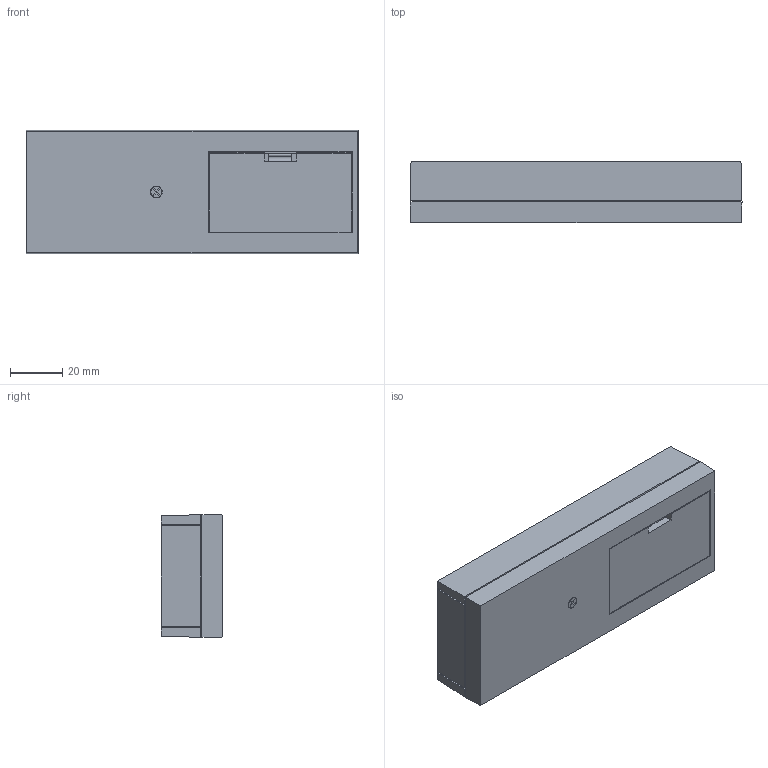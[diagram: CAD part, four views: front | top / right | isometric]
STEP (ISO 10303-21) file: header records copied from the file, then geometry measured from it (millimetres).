
FILE_DESCRIPTION (( 'STEP AP214' ), '1' );
FILE_NAME ('Conujnt PP7A.STEP', '2019-11-04T08:58:45', ( 'aaa' ), ( '' ), 'SwSTEP 2.0', 'SolidWorks 2014', '' );
FILE_SCHEMA (( 'AUTOMOTIVE_DESIGN' ));
Length unit declared in the file: millimetre
Products named in the file (6): Cargol 2,2x6,95 PP7A; Cargol 2,2x16 PP7A; Tapeta pilas PP7A; Tapa PP7A; Cos PP7A; Conujnt PP7A
Assembly tree (6 placements, depth 2):
  Conujnt PP7A
    Cos PP7A
    Tapa PP7A
    Tapeta pilas PP7A
    Cargol 2,2x16 PP7A
    Cargol 2,2x6,95 PP7A  x2
Bounding box: 127.02 x 23.6 x 47.08 mm (x, y, z)
Volume: 43961.8 mm3; surface area: 44591.3 mm2
Topology: 6 solids, 6 shells, 667 faces, 1735 edges, 1062 vertices
Faces by surface type: plane 399, cone 174, cylinder 77, sphere 16, bspline 1
Entity records: 18972 total; most frequent: CARTESIAN_POINT 3475, ORIENTED_EDGE 3194, DIRECTION 3117, EDGE_CURVE 1597, VECTOR 1311, LINE 1311, VERTEX_POINT 997, AXIS2_PLACEMENT_3D 903
